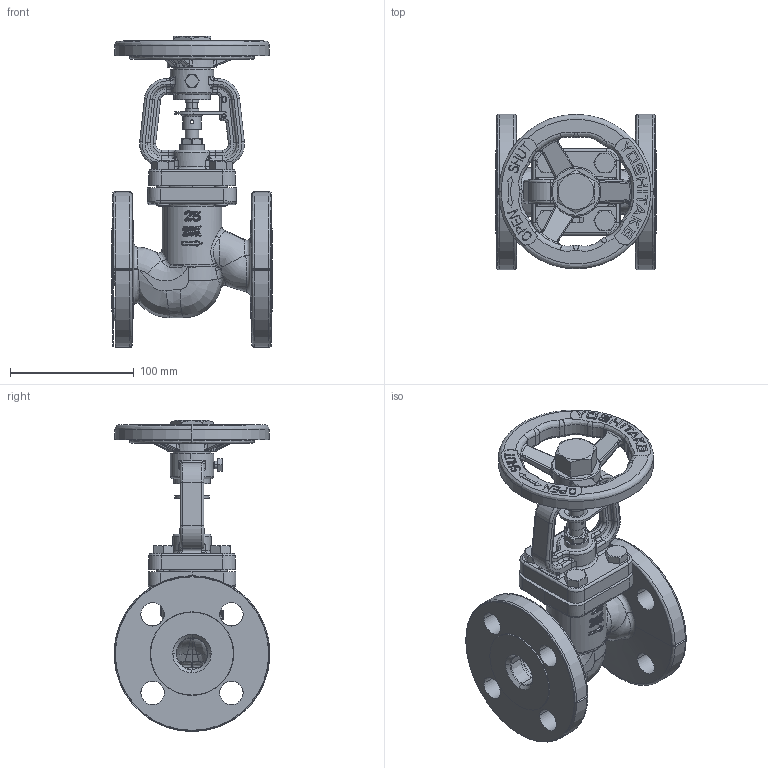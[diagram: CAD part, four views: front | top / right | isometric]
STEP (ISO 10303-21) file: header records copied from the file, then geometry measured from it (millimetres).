
FILE_DESCRIPTION( (''), '2;1');
FILE_NAME ('PC1027.9568.BSV-20F 25A_25702.stp','2025-07-28T09:35:42',(''),(''),'spGate 19.8.4 (****-****-****-****)','','');
FILE_SCHEMA (('AUTOMOTIVE_DESIGN'));
Length unit declared in the file: millimetre
Products named in the file (12): Assembly; ボンネット25-32A; スリーブワッシャー15-32A; スリーブ25-32A; グランドナット25-32A; 弁棒25-32A; ストッパー25-32A; ハンドル15-32A; ハンドルナット15-32A; JIS B 1180 M10六角ボルト; JIS B 1180 M6六角ボルト; 本体20K 25A
Assembly tree (15 placements, depth 2):
  Assembly
    ボンネット25-32A
    スリーブワッシャー15-32A  x2
    スリーブ25-32A
    グランドナット25-32A
    弁棒25-32A
    ストッパー25-32A
    ハンドル15-32A
    ハンドルナット15-32A
    JIS B 1180 M10六角ボルト  x4
    JIS B 1180 M6六角ボルト
    本体20K 25A
Bounding box: 130 x 125.99 x 251.5 mm (x, y, z)
Volume: 742045.2 mm3; surface area: 202046.5 mm2
Topology: 15 solids, 15 shells, 1773 faces, 4359 edges, 2595 vertices
Faces by surface type: bspline 897, cylinder 458, plane 405, sphere 13
Entity records: 116343 total; most frequent: CARTESIAN_POINT 51766, ORIENTED_EDGE 8188, COLOUR_RGB 5788, PRESENTATION_STYLE_ASSIGNMENT 5788, STYLED_ITEM 5788, DIRECTION 4635, EDGE_CURVE 4094, DRAUGHTING_PRE_DEFINED_CURVE_FONT 4094
